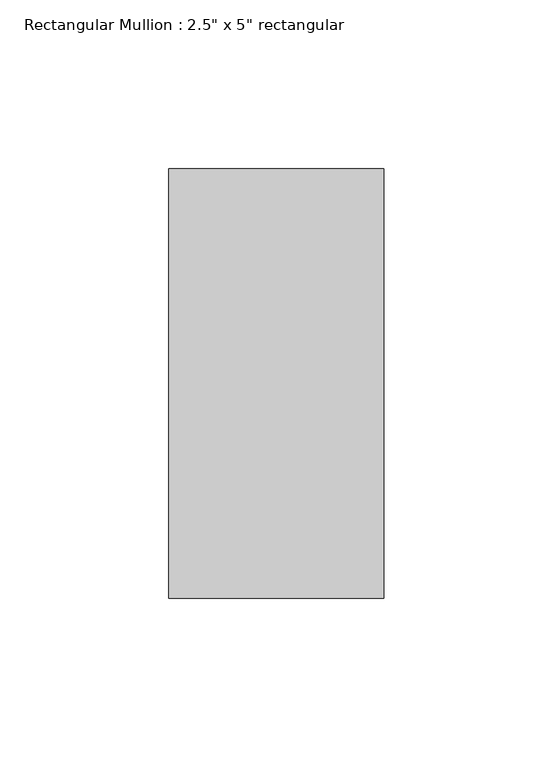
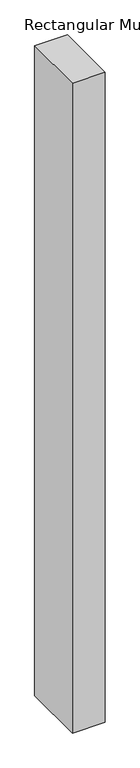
"""IFC4 building model written with IfcOpenShell, lengths in millimetres: member geometry."""

from ifc_helpers import new_model, si_unit, frame, origin, place, context, project, spatial, polyline, outline, extrude, source, transform, mapped, element, save


def member_fce4fd76(model_context):
    return source(origin(), model_context, "Body", "SweptSolid", [
        extrude(outline(polyline([(0.0, 63.5), (0.0, -63.5), (-63.5, -63.5), (-63.5, 63.5), (0.0, 63.5)])), frame((0.0, 0.0, -1338.6975428), z_axis=(0.0, 0.0, 1.0), x_axis=(1.0, 0.0, 0.0)), (0.0, 0.0, 1.0), 1338.6975428),
    ])


if __name__ == "__main__":
    model = new_model("IFC4")
    model_context = context("Model", 3, world=origin())
    ifc_project = project(units=[si_unit("LENGTHUNIT", "METRE", prefix="MILLI")], contexts=[model_context])
    site = spatial("IfcSite", under=ifc_project)
    building = spatial("IfcBuilding", under=site)
    placement = place(None, origin())
    member_shape = member_fce4fd76(model_context)
    element("IfcMember", 1, ObjectType="Rectangular Mullion : 2.5\" x 5\" rectangular", at=placement, inside=building, context=model_context, shape_type="MappedRepresentation", body=[
        mapped(member_shape, transform((0.0, 0.0, 0.0), x_axis=(1.0, 0.0, 0.0), y_axis=(0.0, 1.0, 0.0), z_axis=(0.0, 0.0, 1.0))),
    ])
    save(model, "model.ifc")
